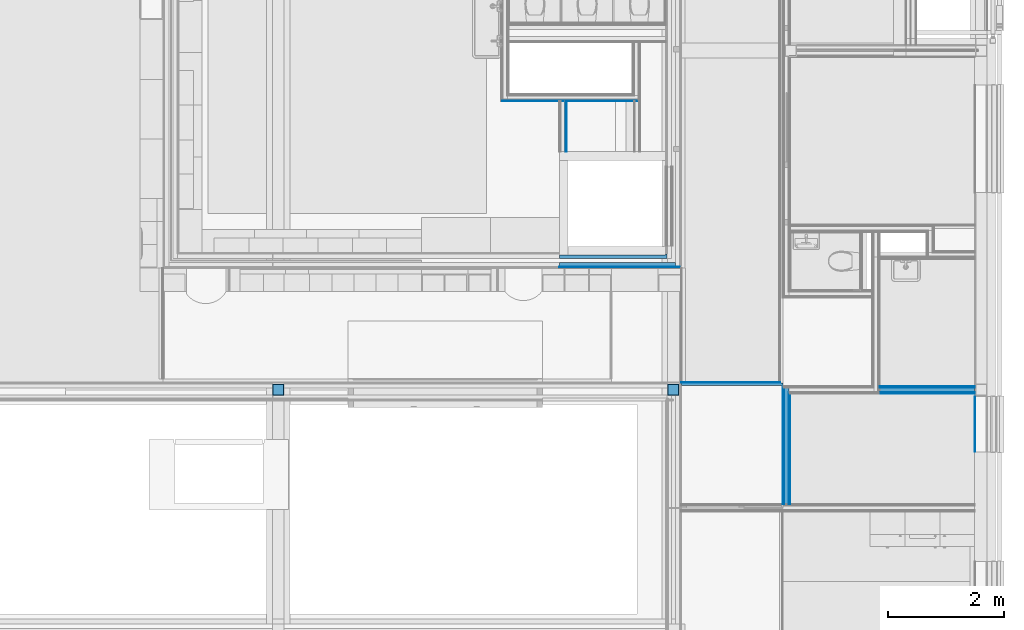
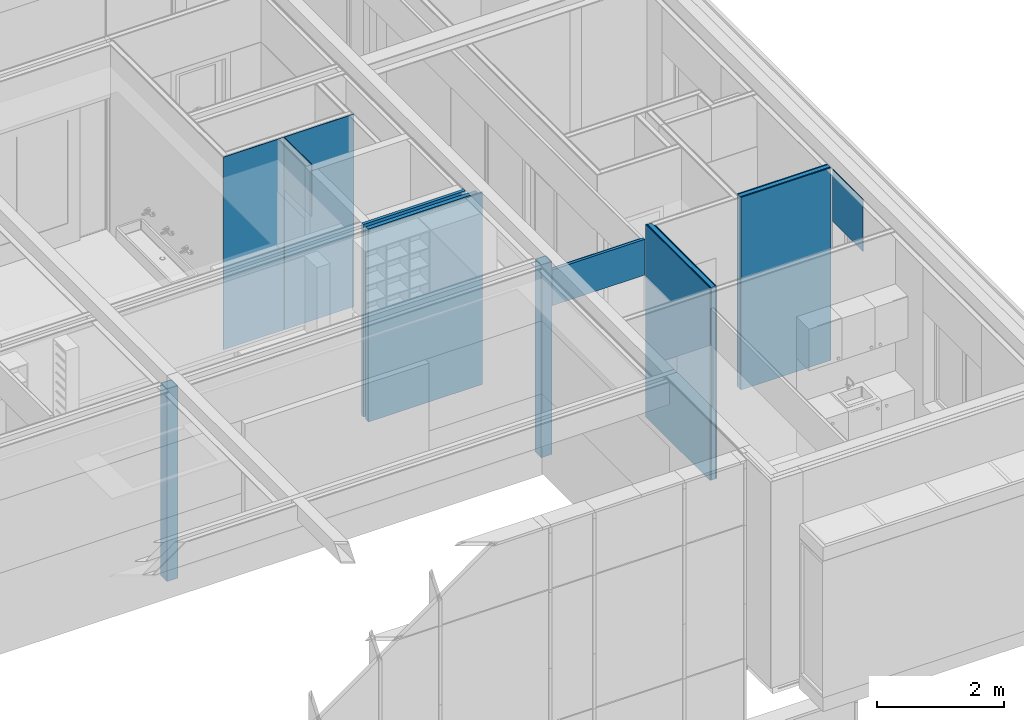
# One storey, part 70 of 137: 22 building element parts, 1 opening, 9 elements without a shape of their own.
"""IFC2X3 building model written with IfcOpenShell, lengths in millimetres."""

from ifc_helpers import new_model, entity, si_unit, converted_unit, derived_unit, money_unit, direction, frame, origin_with_axes, place, context, subcontext, project, spatial, faceted_brep, material, type_object, element, aggregate, save


model = new_model("IFC2X3")

# Units and contexts
model_context = context("Model", 3, precision=0.01, world=origin_with_axes(), true_north=direction((0.0, 1.0)))
body_context = subcontext(model_context, "Body", "Model", "MODEL_VIEW")
ifc_project = project(units=[si_unit("LENGTHUNIT", "METRE", prefix="MILLI"), si_unit("AREAUNIT", "SQUARE_METRE"), si_unit("VOLUMEUNIT", "CUBIC_METRE"), converted_unit("PLANEANGLEUNIT", "DEGREE", entity("IfcPlaneAngleMeasure", 0.0174532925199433), si_unit("PLANEANGLEUNIT", "RADIAN"), dimensions=[0, 0, 0, 0, 0, 0, 0]), money_unit("EUR"), converted_unit("TIMEUNIT", "Year", entity("IfcTimeMeasure", 31556926.0), si_unit("TIMEUNIT", "SECOND"), dimensions=[0, 0, 1, 0, 0, 0, 0]), si_unit("MASSUNIT", "GRAM", prefix="KILO"), si_unit("THERMODYNAMICTEMPERATUREUNIT", "DEGREE_CELSIUS"), si_unit("LUMINOUSINTENSITYUNIT", "LUMEN"), si_unit("ENERGYUNIT", "JOULE", prefix="MEGA"), derived_unit("THERMALCONDUCTANCEUNIT", [(si_unit("POWERUNIT", "WATT"), 1), (si_unit("LENGTHUNIT", "METRE"), -1), (si_unit("THERMODYNAMICTEMPERATUREUNIT", "KELVIN"), -1)]), derived_unit("SPECIFICHEATCAPACITYUNIT", [(si_unit("ENERGYUNIT", "JOULE"), 1), (si_unit("MASSUNIT", "GRAM", prefix="KILO"), -1), (si_unit("THERMODYNAMICTEMPERATUREUNIT", "KELVIN"), -1)]), derived_unit("MASSDENSITYUNIT", [(si_unit("MASSUNIT", "GRAM", prefix="KILO"), 1), (si_unit("VOLUMEUNIT", "CUBIC_METRE"), -1)])], contexts=[model_context])

# Site, building, storey
site_placement = place(None, origin_with_axes())
site = spatial("IfcSite", under=ifc_project, at=site_placement, Name="Site", CompositionType="ELEMENT")
building_placement = place(site_placement, origin_with_axes())
building = spatial("IfcBuilding", under=site, at=building_placement, Name="Naam gebouw", CompositionType="ELEMENT")
storey_placement = place(building_placement, frame((0.0, 0.0, 3960.0), z_axis=(0.0, 0.0, 1.0), x_axis=(1.0, 0.0, 0.0)))
storey = spatial("IfcBuildingStorey", under=building, at=storey_placement, Name="1e verdieping", CompositionType="ELEMENT", Elevation=3960.0)

# Proxy, building element parts
building_element_proxy_type_1 = type_object("IfcBuildingElementProxyType", Name="22 Metal stud 125 gips 125", PredefinedType="NOTDEFINED")
proxy_1_placement = place(storey_placement, frame((29899.99999999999, 10810.00011055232, -100.0000000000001), z_axis=(0.0, 0.0, 1.0), x_axis=(-1.0, 0.0, 0.0)))
proxy_1 = element("IfcBuildingElementProxy", 1, at=proxy_1_placement, inside=storey, type_object=building_element_proxy_type_1, Name="_Wand-x")
ifc_material_1 = material(Name="Gipsplaat")
building_element_part_1_placement = place(proxy_1_placement, origin_with_axes())
building_element_part_1 = element("IfcBuildingElementPart", 2, at=building_element_part_1_placement, material=ifc_material_1, Name="Gipsplaat", context=body_context, shape_type="Brep", body=[
    faceted_brep([(213.9999999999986, 50.00000000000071, 3695.000001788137), (213.9999999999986, 37.49999999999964, 3695.000001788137), (213.9999999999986, 37.49999999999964, 3700.0), (213.9999999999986, 50.00000000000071, 3700.0), (299.0000049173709, 37.49999999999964, 3695.000001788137), (299.0000049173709, 50.00000000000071, 3695.000001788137), (299.0000049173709, 37.49999999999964, 3685.000001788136), (213.9999999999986, 37.49999999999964, 3685.000001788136), (213.9999999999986, 37.49999999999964, 0.0), (1850.002354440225, 37.49999999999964, 0.0), (1850.002354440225, 37.49999999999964, 3700.0), (1850.002354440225, 50.00000000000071, 3700.0), (1850.002354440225, 50.00000000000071, 0.0), (213.9999999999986, 50.00000000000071, 0.0), (213.9999999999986, 50.00000000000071, 3685.000001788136), (299.0000049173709, 50.00000000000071, 3685.000001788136)], [[[0, 1, 2, 3]], [[4, 1, 0, 5]], [[6, 7, 8, 9, 10, 2, 1, 4]], [[2, 10, 11, 3]], [[5, 0, 3, 11, 12, 13, 14, 15]], [[6, 4, 5, 15]], [[14, 7, 6, 15]], [[7, 14, 13, 8]], [[13, 12, 9, 8]], [[12, 11, 10, 9]]]),
])
building_element_part_2_placement = place(proxy_1_placement, origin_with_axes())
building_element_part_2 = element("IfcBuildingElementPart", 3, at=building_element_part_2_placement, material=ifc_material_1, Name="Gipsplaat", context=body_context, shape_type="Brep", body=[
    faceted_brep([(213.9999999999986, 62.5, 3695.000001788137), (213.9999999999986, 50.00000000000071, 3695.000001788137), (213.9999999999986, 50.00000000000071, 3700.0), (213.9999999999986, 62.5, 3700.0), (299.0000049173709, 50.00000000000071, 3695.000001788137), (299.0000049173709, 62.5, 3695.000001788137), (299.0000049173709, 50.00000000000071, 3685.000001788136), (213.9999999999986, 50.00000000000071, 3685.000001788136), (213.9999999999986, 50.00000000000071, 0.0), (1850.002354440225, 50.00000000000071, 0.0), (1850.002354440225, 50.00000000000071, 3700.0), (1850.002354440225, 62.5, 3700.0), (1850.002354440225, 62.5, 0.0), (213.9999999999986, 62.5, 0.0), (213.9999999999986, 62.5, 3685.000001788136), (299.0000049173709, 62.5, 3685.000001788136)], [[[0, 1, 2, 3]], [[4, 1, 0, 5]], [[6, 7, 8, 9, 10, 2, 1, 4]], [[2, 10, 11, 3]], [[5, 0, 3, 11, 12, 13, 14, 15]], [[6, 4, 5, 15]], [[14, 7, 6, 15]], [[7, 14, 13, 8]], [[13, 12, 9, 8]], [[12, 11, 10, 9]]]),
])
ifc_material_2 = material(Name="ALG - LICHTE SCHEIDINGSWAND")
building_element_part_3_placement = place(proxy_1_placement, origin_with_axes())
building_element_part_3 = element("IfcBuildingElementPart", 4, at=building_element_part_3_placement, material=ifc_material_2, Name="ALG - LICHTE SCHEIDINGSWAND", context=body_context, shape_type="Brep", body=[
    faceted_brep([(213.9999999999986, 37.49999999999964, 3695.000001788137), (213.9999999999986, -37.49999999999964, 3695.000001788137), (213.9999999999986, -37.49999999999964, 3700.0), (213.9999999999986, 37.49999999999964, 3700.0), (299.0000049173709, -37.49999999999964, 3695.000001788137), (299.0000049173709, 37.49999999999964, 3695.000001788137), (299.0000049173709, -37.49999999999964, 3685.000001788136), (213.9999999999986, -37.49999999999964, 3685.000001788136), (213.9999999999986, -37.49999999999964, 0.0), (1850.002354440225, -37.49999999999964, 0.0), (1850.002354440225, -37.49999999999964, 3700.0), (1850.002354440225, 37.49999999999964, 3700.0), (1850.002354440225, 37.49999999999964, 0.0), (213.9999999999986, 37.49999999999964, 0.0), (213.9999999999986, 37.49999999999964, 3685.000001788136), (299.0000049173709, 37.49999999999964, 3685.000001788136)], [[[0, 1, 2, 3]], [[4, 1, 0, 5]], [[6, 7, 8, 9, 10, 2, 1, 4]], [[2, 10, 11, 3]], [[5, 0, 3, 11, 12, 13, 14, 15]], [[6, 4, 5, 15]], [[14, 7, 6, 15]], [[7, 14, 13, 8]], [[13, 12, 9, 8]], [[12, 11, 10, 9]]]),
])
building_element_part_4_placement = place(proxy_1_placement, origin_with_axes())
building_element_part_4 = element("IfcBuildingElementPart", 5, at=building_element_part_4_placement, material=ifc_material_1, Name="Gipsplaat", context=body_context, shape_type="Brep", body=[
    faceted_brep([(213.9999999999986, -37.49999999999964, 3695.000001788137), (213.9999999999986, -49.99999999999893, 3695.000001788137), (213.9999999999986, -49.99999999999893, 3700.0), (213.9999999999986, -37.49999999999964, 3700.0), (299.0000049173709, -49.99999999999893, 3695.000001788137), (299.0000049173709, -37.49999999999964, 3695.000001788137), (299.0000049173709, -49.99999999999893, 3685.000001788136), (213.9999999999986, -49.99999999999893, 3685.000001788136), (213.9999999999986, -50.00000000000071, 0.0), (1850.002354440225, -50.00000000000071, 0.0), (1850.002354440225, -49.99999999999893, 3700.0), (1850.002354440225, -37.49999999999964, 3700.0), (1850.002354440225, -37.49999999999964, 0.0), (213.9999999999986, -37.49999999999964, 0.0), (213.9999999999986, -37.49999999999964, 3685.000001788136), (299.0000049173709, -37.49999999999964, 3685.000001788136)], [[[0, 1, 2, 3]], [[4, 1, 0, 5]], [[6, 7, 8, 9, 10, 2, 1, 4]], [[2, 10, 11, 3]], [[5, 0, 3, 11, 12, 13, 14, 15]], [[6, 4, 5, 15]], [[14, 7, 6, 15]], [[7, 14, 13, 8]], [[13, 12, 9, 8]], [[12, 11, 10, 9]]]),
])
building_element_part_5_placement = place(proxy_1_placement, origin_with_axes())
building_element_part_5 = element("IfcBuildingElementPart", 6, at=building_element_part_5_placement, material=ifc_material_1, Name="Gipsplaat", context=body_context, shape_type="Brep", body=[
    faceted_brep([(213.9999999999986, -49.99999999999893, 3695.000001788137), (213.9999999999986, -62.5, 3695.000001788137), (213.9999999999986, -62.5, 3700.0), (213.9999999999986, -49.99999999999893, 3700.0), (299.0000049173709, -62.49999999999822, 3695.000001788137), (299.0000049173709, -49.99999999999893, 3695.000001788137), (299.0000049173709, -62.49999999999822, 3685.000001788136), (213.9999999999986, -62.5, 3685.000001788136), (213.9999999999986, -62.5, 0.0), (1850.002354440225, -62.5, 0.0), (1850.002354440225, -62.5, 3700.0), (1850.002354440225, -49.99999999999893, 3700.0), (1850.002354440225, -50.00000000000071, 0.0), (213.9999999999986, -50.00000000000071, 0.0), (213.9999999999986, -49.99999999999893, 3685.000001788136), (299.0000049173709, -49.99999999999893, 3685.000001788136)], [[[0, 1, 2, 3]], [[4, 1, 0, 5]], [[6, 7, 8, 9, 10, 2, 1, 4]], [[2, 10, 11, 3]], [[5, 0, 3, 11, 12, 13, 14, 15]], [[6, 4, 5, 15]], [[14, 7, 6, 15]], [[7, 14, 13, 8]], [[13, 12, 9, 8]], [[12, 11, 10, 9]]]),
])
aggregate(proxy_1, [building_element_part_1, building_element_part_2, building_element_part_3, building_element_part_4, building_element_part_5])

proxy_2_placement = place(storey_placement, frame((26386.00000000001, 10810.00011055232, -100.0000000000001), z_axis=(0.0, 0.0, 1.0), x_axis=(0.0, -1.0, 0.0)))
proxy_2 = element("IfcBuildingElementProxy", 7, at=proxy_2_placement, inside=storey, type_object=building_element_proxy_type_1, Name="_Wand-x")
building_element_part_6_placement = place(proxy_2_placement, origin_with_axes())
building_element_part_6 = element("IfcBuildingElementPart", 8, at=building_element_part_6_placement, material=ifc_material_1, Name="Gipsplaat", context=body_context, shape_type="Brep", body=[
    faceted_brep([(1970.000110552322, 112.5000000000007, 0.0), (50.00000000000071, 112.5000000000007, 0.0), (50.00000000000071, 125.0, 0.0), (1970.000110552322, 125.0, 0.0), (1970.000110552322, 112.5000000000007, 3700.0), (50.00000000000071, 112.5000000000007, 3700.0), (50.00000000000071, 125.0, 3700.0), (1970.000110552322, 125.0, 3700.0)], [[[0, 1, 2, 3]], [[4, 5, 1, 0]], [[2, 1, 5, 6]], [[3, 2, 6, 7]], [[3, 7, 4, 0]], [[7, 6, 5, 4]]]),
])
building_element_part_7_placement = place(proxy_2_placement, origin_with_axes())
building_element_part_7 = element("IfcBuildingElementPart", 9, at=building_element_part_7_placement, material=ifc_material_1, Name="Gipsplaat", context=body_context, shape_type="Brep", body=[
    faceted_brep([(1970.000110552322, 100.0000000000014, 0.0), (37.49999999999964, 100.0000000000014, 0.0), (37.49999999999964, 112.5000000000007, 0.0), (1970.000110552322, 112.5000000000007, 0.0), (1970.000110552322, 100.0000000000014, 3700.0), (37.49999999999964, 100.0000000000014, 3700.0), (37.49999999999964, 112.5000000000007, 3700.0), (1970.000110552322, 112.5000000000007, 3700.0)], [[[0, 1, 2, 3]], [[4, 5, 1, 0]], [[2, 1, 5, 6]], [[3, 2, 6, 7]], [[3, 7, 4, 0]], [[7, 6, 5, 4]]]),
])
building_element_part_8_placement = place(proxy_2_placement, origin_with_axes())
building_element_part_8 = element("IfcBuildingElementPart", 10, at=building_element_part_8_placement, material=ifc_material_2, Name="ALG - LICHTE SCHEIDINGSWAND", context=body_context, shape_type="Brep", body=[
    faceted_brep([(1970.000110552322, 24.99999999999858, 0.0), (-37.49999999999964, 24.99999999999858, 0.0), (-37.49999999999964, 100.0000000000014, 0.0), (1970.000110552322, 100.0000000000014, 0.0), (1970.000110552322, 24.99999999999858, 3700.0), (-37.49999999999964, 24.99999999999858, 3700.0), (-37.49999999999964, 100.0000000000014, 3700.0), (1970.000110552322, 100.0000000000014, 3700.0)], [[[0, 1, 2, 3]], [[4, 5, 1, 0]], [[2, 1, 5, 6]], [[3, 2, 6, 7]], [[3, 7, 4, 0]], [[7, 6, 5, 4]]]),
])
building_element_part_9_placement = place(proxy_2_placement, origin_with_axes())
building_element_part_9 = element("IfcBuildingElementPart", 11, at=building_element_part_9_placement, material=ifc_material_1, Name="Gipsplaat", context=body_context, shape_type="Brep", body=[
    faceted_brep([(1970.000110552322, 12.49999999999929, 0.0), (-50.00000000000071, 12.49999999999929, 0.0), (-50.00000000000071, 24.99999999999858, 0.0), (1970.000110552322, 24.99999999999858, 0.0), (1970.000110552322, 12.49999999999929, 3700.0), (-50.00000000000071, 12.49999999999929, 3700.0), (-50.00000000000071, 24.99999999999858, 3700.0), (1970.000110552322, 24.99999999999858, 3700.0)], [[[0, 1, 2, 3]], [[4, 5, 1, 0]], [[2, 1, 5, 6]], [[3, 2, 6, 7]], [[3, 7, 4, 0]], [[7, 6, 5, 4]]]),
])
building_element_part_10_placement = place(proxy_2_placement, origin_with_axes())
building_element_part_10 = element("IfcBuildingElementPart", 12, at=building_element_part_10_placement, material=ifc_material_1, Name="Gipsplaat", context=body_context, shape_type="Brep", body=[
    faceted_brep([(1970.000110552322, 0.0, 0.0), (-62.5, 0.0, 0.0), (-62.5, 12.49999999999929, 0.0), (1970.000110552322, 12.49999999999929, 0.0), (1970.000110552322, 0.0, 3700.0), (-62.5, 0.0, 3700.0), (-62.5, 12.49999999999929, 3700.0), (1970.000110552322, 12.49999999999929, 3700.0)], [[[0, 1, 2, 3]], [[4, 5, 1, 0]], [[2, 1, 5, 6]], [[3, 2, 6, 7]], [[3, 7, 4, 0]], [[7, 6, 5, 4]]]),
])
aggregate(proxy_2, [building_element_part_6, building_element_part_7, building_element_part_8, building_element_part_9, building_element_part_10])

building_element_proxy_type_2 = type_object("IfcBuildingElementProxyType", Name="22 Metal stud 270 oregon pine 270", PredefinedType="NOTDEFINED")
proxy_3_placement = place(storey_placement, frame((24499.99903999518, 13039.99778166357, -100.0000000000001), z_axis=(0.0, 0.0, 1.0), x_axis=(-1.0, 0.0, 0.0)))
proxy_3 = element("IfcBuildingElementProxy", 13, at=proxy_3_placement, inside=storey, type_object=building_element_proxy_type_2, Name="_Wand-x")
building_element_part_11_placement = place(proxy_3_placement, origin_with_axes())
building_element_part_11 = element("IfcBuildingElementPart", 14, at=building_element_part_11_placement, material=ifc_material_1, Name="Gipsplaat", context=body_context, shape_type="Brep", body=[
    faceted_brep([(94.99999999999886, 109.9999999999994, 3700.0), (94.99999999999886, 122.5000000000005, 3700.0), (-94.99999999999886, 122.5000000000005, 3700.0), (-94.99999999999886, 109.9999999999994, 3700.0), (94.99999999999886, 109.9999999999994, 3695.000029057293), (94.99999999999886, 122.5000000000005, 3695.000029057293), (-94.99999999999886, 122.5000000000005, 3695.000029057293), (-94.99999999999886, 109.9999999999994, 3695.000029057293)], [[[0, 1, 2, 3]], [[1, 0, 4, 5]], [[6, 2, 1, 5]], [[7, 3, 2, 6]], [[4, 0, 3, 7]], [[4, 7, 6, 5]]]),
    faceted_brep([(199.9999999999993, 109.9999999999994, 3695.000029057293), (199.9999999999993, 109.9999999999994, 3685.000029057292), (-109.9999999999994, 109.9999999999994, 3685.000029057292), (-109.9999999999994, 109.9999999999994, 0.0), (1964.999999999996, 109.9999999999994, 0.0), (1964.999999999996, 109.9999999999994, 3700.0), (100.9999999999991, 109.9999999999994, 3700.0), (100.9999999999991, 109.9999999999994, 3695.000029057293), (199.9999999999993, 122.5000000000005, 3695.000029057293), (199.9999999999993, 122.5000000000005, 3685.000029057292), (-109.9999999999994, 122.5000000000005, 3685.000029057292), (-109.9999999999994, 122.5000000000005, 0.0), (1964.999999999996, 122.5000000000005, 0.0), (1964.999999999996, 122.5000000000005, 3700.0), (100.9999999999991, 122.5000000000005, 3700.0), (100.9999999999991, 122.5000000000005, 3695.000029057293)], [[[0, 1, 2, 3, 4, 5, 6, 7]], [[1, 0, 8, 9]], [[10, 2, 1, 9]], [[2, 10, 11, 3]], [[11, 12, 4, 3]], [[13, 5, 4, 12]], [[14, 6, 5, 13]], [[7, 6, 14, 15]], [[0, 7, 15, 8]], [[15, 14, 13, 12, 11, 10, 9, 8]]]),
    faceted_brep([(-109.9999999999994, 122.5000000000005, 3695.000029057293), (-109.9999999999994, 109.9999999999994, 3695.000029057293), (-109.9999999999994, 109.9999999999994, 3700.0), (-109.9999999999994, 122.5000000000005, 3700.0), (-100.9999999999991, 109.9999999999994, 3695.000029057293), (-100.9999999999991, 122.5000000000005, 3695.000029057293), (-100.9999966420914, 109.9999999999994, 3700.0), (-100.9999966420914, 122.5000000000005, 3700.0)], [[[0, 1, 2, 3]], [[4, 1, 0, 5]], [[4, 6, 2, 1]], [[6, 7, 3, 2]], [[5, 0, 3, 7]], [[7, 6, 4, 5]]]),
])
building_element_part_12_placement = place(proxy_3_placement, origin_with_axes())
building_element_part_12 = element("IfcBuildingElementPart", 15, at=building_element_part_12_placement, material=ifc_material_2, Name="ALG - LICHTE SCHEIDINGSWAND", context=body_context, shape_type="Brep", body=[
    faceted_brep([(1814.999999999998, -89.99992040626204, 0.0), (1814.999999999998, -89.99992040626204, 3700.0), (134.999999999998, -89.99992040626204, 3700.0), (134.999999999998, -89.99992040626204, 3695.000029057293), (199.9999999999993, -89.99992040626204, 3695.000029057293), (199.9999999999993, -89.99992040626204, 3685.000029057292), (134.999999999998, -89.99992040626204, 3685.000029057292), (134.999999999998, -89.99992040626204, 0.0), (1964.999999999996, -89.99992040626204, 3700.0), (1964.999999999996, -89.99992040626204, 0.0), (1964.999999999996, -35.00000000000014, 3700.0), (109.9999999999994, -35.00000000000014, 3700.0), (109.9999999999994, -109.9999999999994, 3700.0), (134.999999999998, -109.9999999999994, 3700.0), (134.999999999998, -109.9999999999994, 3695.000029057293), (109.9999999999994, -109.9999999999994, 3695.000029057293), (109.9999999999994, -35.00000000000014, 3695.000029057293), (199.9999999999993, -35.00000000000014, 3695.000029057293), (199.9999999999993, -35.00000000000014, 3685.000029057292), (134.999999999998, -109.9999999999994, 3685.000029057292), (109.9999999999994, -35.00000000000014, 3685.000029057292), (109.9999999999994, -109.9999999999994, 3685.000029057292), (134.999999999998, -109.9999999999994, 0.0), (109.9999999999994, -109.9999999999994, 0.0), (109.9999999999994, -35.00000000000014, 0.0), (1964.999999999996, -35.00000000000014, 0.0)], [[[0, 1, 2, 3, 4, 5, 6, 7]], [[8, 1, 0, 9]], [[1, 8, 10, 11, 12, 13, 2]], [[3, 2, 13, 14]], [[4, 3, 14, 15, 16, 17]], [[18, 5, 4, 17]], [[19, 6, 5, 18, 20, 21]], [[7, 6, 19, 22]], [[9, 0, 7, 22, 23, 24, 25]], [[8, 9, 25, 10]], [[20, 18, 17, 16, 11, 10, 25, 24]], [[12, 11, 16, 15]], [[15, 14, 13, 12]], [[24, 23, 21, 20]], [[23, 22, 19, 21]]]),
])
building_element_part_13_placement = place(proxy_3_placement, origin_with_axes())
building_element_part_13 = element("IfcBuildingElementPart", 16, at=building_element_part_13_placement, material=ifc_material_2, Name="ALG - LICHTE SCHEIDINGSWAND", context=body_context, shape_type="Brep", body=[
    faceted_brep([(199.9999999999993, 35.00000000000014, 3695.000029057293), (199.9999999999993, 35.00000000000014, 3685.000029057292), (-35.00000000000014, 35.00000000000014, 3685.000029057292), (-35.00000000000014, 35.00000000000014, 0.0), (1964.999999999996, 35.00000000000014, 0.0), (1964.999999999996, 35.00000000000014, 3700.0), (100.9999999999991, 35.00000000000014, 3700.0), (100.9999999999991, 35.00000000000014, 3695.000029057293), (199.9999999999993, 109.9999999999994, 3695.000029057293), (199.9999999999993, 109.9999999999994, 3685.000029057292), (-35.00000000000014, 109.9999999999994, 3685.000029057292), (-35.00000000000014, 109.9999999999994, 0.0), (1964.999999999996, 109.9999999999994, 0.0), (1964.999999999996, 109.9999999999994, 3700.0), (100.9999999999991, 109.9999999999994, 3700.0), (100.9999999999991, 109.9999999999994, 3695.000029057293)], [[[0, 1, 2, 3, 4, 5, 6, 7]], [[1, 0, 8, 9]], [[10, 2, 1, 9]], [[2, 10, 11, 3]], [[11, 12, 4, 3]], [[13, 5, 4, 12]], [[14, 6, 5, 13]], [[7, 6, 14, 15]], [[0, 7, 15, 8]], [[15, 14, 13, 12, 11, 10, 9, 8]]]),
    faceted_brep([(-35.00000000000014, 109.9999999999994, 3695.000029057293), (-35.00000000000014, 35.00000000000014, 3695.000029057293), (-35.00000000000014, 35.00000000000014, 3700.0), (-35.00000000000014, 109.9999999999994, 3700.0), (94.99999999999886, 35.00000000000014, 3695.000029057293), (94.99999999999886, 109.9999999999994, 3695.000029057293), (94.99999999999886, 35.00000000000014, 3700.0), (94.99999999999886, 109.9999999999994, 3700.0)], [[[0, 1, 2, 3]], [[4, 1, 0, 5]], [[4, 6, 2, 1]], [[6, 7, 3, 2]], [[5, 0, 3, 7]], [[7, 6, 4, 5]]]),
])
aggregate(proxy_3, [building_element_part_11, building_element_part_12, building_element_part_13])

# Proxy, building element part
proxy_4_placement = place(storey_placement, frame((21539.99903999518, 15774.99778168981, -100.0000000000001), z_axis=(0.0, 0.0, 1.0), x_axis=(1.0, 0.0, 0.0)))
proxy_4 = element("IfcBuildingElementProxy", 17, at=proxy_4_placement, inside=storey, type_object=building_element_proxy_type_1, Name="_Wand-x")
building_element_part_14_placement = place(proxy_4_placement, origin_with_axes())
building_element_part_14 = element("IfcBuildingElementPart", 18, at=building_element_part_14_placement, material=ifc_material_1, Name="Gipsplaat", context=body_context, shape_type="Brep", body=[
    faceted_brep([(2385.000000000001, 9.351452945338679e-08, 0.0), (12.49999999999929, 4.902744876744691e-10, 0.0), (12.49999999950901, 12.50000000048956, 0.0), (2384.999999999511, 12.50000009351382, 0.0), (2385.000000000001, 9.351452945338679e-08, 3700.0), (12.49999999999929, 4.902744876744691e-10, 3700.0), (12.49999999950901, 12.50000000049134, 3700.0), (2384.999999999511, 12.5000000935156, 3700.0)], [[[0, 1, 2, 3]], [[4, 5, 1, 0]], [[2, 1, 5, 6]], [[3, 2, 6, 7]], [[3, 7, 4, 0]], [[7, 6, 5, 4]]]),
])
aggregate(proxy_4, [building_element_part_14])

# Column, building element part
column_type = type_object("IfcColumnType", Name="200X200X10 200 x 200", PredefinedType="COLUMN")
column_1_placement = place(storey_placement, frame((17699.99942456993, 10810.00011055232, -100.0000000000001), z_axis=(0.0, 0.0, 1.0), x_axis=(1.0, 0.0, 0.0)))
column_1 = element("IfcColumn", 19, at=column_1_placement, inside=storey, type_object=column_type, Name="28_Kolom-x", ObjectType="COLUMN")
ifc_material_3 = material(Name="Metaal - Staal C")
building_element_part_15_placement = place(column_1_placement, origin_with_axes())
building_element_part_15 = element("IfcBuildingElementPart", 20, at=building_element_part_15_placement, material=ifc_material_3, Name="Metaal - Staal C", context=body_context, shape_type="Brep", body=[
    faceted_brep([(-100.0000000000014, -99.99999999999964, 0.0), (100.0000000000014, -99.99999999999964, 0.0), (100.0000000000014, -99.99999999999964, 3699.999999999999), (-100.0000000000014, -99.99999999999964, 3699.999999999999), (-100.0000000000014, 99.99999999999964, 0.0), (100.0000000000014, 99.99999999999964, 0.0), (-89.99999999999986, -89.99999999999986, 0.0), (89.99999999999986, -89.99999999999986, 0.0), (89.99999999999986, 89.99999999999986, 0.0), (-89.99999999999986, 89.99999999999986, 0.0), (100.0000000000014, 99.99999999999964, 3699.999999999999), (-100.0000000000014, 99.99999999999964, 3699.999999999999), (-89.99999999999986, -89.99999999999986, 3699.999999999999), (-89.99999999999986, 89.99999999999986, 3699.999999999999), (89.99999999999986, 89.99999999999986, 3699.999999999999), (89.99999999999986, -89.99999999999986, 3699.999999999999)], [[[0, 1, 2, 3]], [[0, 4, 5, 1], [6, 7, 8, 9]], [[1, 5, 10, 2]], [[3, 2, 10, 11], [12, 13, 14, 15]], [[4, 0, 3, 11]], [[5, 4, 11, 10]], [[7, 6, 12, 15]], [[8, 7, 15, 14]], [[9, 8, 14, 13]], [[6, 9, 13, 12]]]),
])

# Column, building element parts
column_2_placement = place(storey_placement, frame((24499.99903999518, 10810.00011055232, -100.0000000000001), z_axis=(0.0, 0.0, 1.0), x_axis=(1.0, 0.0, 0.0)))
column_2 = element("IfcColumn", 21, at=column_2_placement, inside=storey, type_object=column_type, Name="28_Kolom-x", ObjectType="COLUMN")
building_element_part_16_placement = place(column_2_placement, origin_with_axes())
building_element_part_16 = element("IfcBuildingElementPart", 22, at=building_element_part_16_placement, material=ifc_material_3, Name="Metaal - Staal C", context=body_context, shape_type="Brep", body=[
    faceted_brep([(-100.0000000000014, -99.99999999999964, 0.0), (100.0000000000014, -99.99999999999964, 0.0), (100.0000000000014, -99.99999999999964, 3699.999999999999), (-100.0000000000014, -99.99999999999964, 3699.999999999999), (-100.0000000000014, 99.99999999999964, 0.0), (100.0000000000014, 99.99999999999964, 0.0), (-89.99999999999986, -89.99999999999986, 0.0), (89.99999999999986, -89.99999999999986, 0.0), (89.99999999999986, 89.99999999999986, 0.0), (-89.99999999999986, 89.99999999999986, 0.0), (100.0000000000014, 99.99999999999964, 3699.999999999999), (-100.0000000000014, 99.99999999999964, 3699.999999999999), (-89.99999999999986, -89.99999999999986, 3699.999999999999), (-89.99999999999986, 89.99999999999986, 3699.999999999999), (89.99999999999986, 89.99999999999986, 3699.999999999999), (89.99999999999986, -89.99999999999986, 3699.999999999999)], [[[0, 1, 2, 3]], [[0, 4, 5, 1], [6, 7, 8, 9]], [[1, 5, 10, 2]], [[3, 2, 10, 11], [12, 13, 14, 15]], [[4, 0, 3, 11]], [[5, 4, 11, 10]], [[7, 6, 12, 15]], [[8, 7, 15, 14]], [[9, 8, 14, 13]], [[6, 9, 13, 12]]]),
])
ifc_material_4 = material(Name="Beton gewapend C")
building_element_part_17_placement = place(column_2_placement, origin_with_axes())
building_element_part_17 = element("IfcBuildingElementPart", 23, at=building_element_part_17_placement, material=ifc_material_4, Name="Beton gewapend C", context=body_context, shape_type="Brep", body=[
    faceted_brep([(-89.99999999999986, 89.99999999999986, 3685.000029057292), (89.99999999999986, 89.99999999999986, 3685.000029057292), (89.99999999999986, 89.99999999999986, 0.0), (-89.99999999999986, 89.99999999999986, 0.0), (89.99999999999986, -89.99999999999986, 3685.000029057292), (-89.99999999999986, -89.99999999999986, 3685.000029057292), (89.99999999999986, -89.99999999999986, 0.0), (-89.99999999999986, -89.99999999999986, 0.0)], [[[0, 1, 2, 3]], [[4, 1, 0, 5]], [[1, 4, 6, 2]], [[2, 6, 7, 3]], [[5, 0, 3, 7]], [[4, 5, 7, 6]]]),
    faceted_brep([(89.99999999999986, -89.99999999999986, 3695.000029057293), (89.99999999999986, 89.99999999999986, 3695.000029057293), (89.99999999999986, 89.99999999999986, 3699.999999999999), (89.99999999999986, -89.99999999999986, 3699.999999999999), (-89.99999999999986, 89.99999999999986, 3695.000029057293), (-89.99999999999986, -89.99999999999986, 3695.000029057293), (-89.99999999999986, 89.99999999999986, 3699.999999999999), (-89.99999999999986, -89.99999999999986, 3699.999999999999)], [[[0, 1, 2, 3]], [[4, 1, 0, 5]], [[1, 4, 6, 2]], [[2, 6, 7, 3]], [[5, 0, 3, 7]], [[4, 5, 7, 6]]]),
])
aggregate(column_2, [building_element_part_16, building_element_part_17])

# Building element part
building_element_part_18_placement = place(column_1_placement, origin_with_axes())
building_element_part_18 = element("IfcBuildingElementPart", 24, at=building_element_part_18_placement, material=ifc_material_4, Name="Beton gewapend C", context=body_context, shape_type="Brep", body=[
    faceted_brep([(-89.99999999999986, 89.99999999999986, 3675.000029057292), (89.99999999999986, 89.99999999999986, 3675.000029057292), (89.99999999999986, 89.99999999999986, 0.0), (-89.99999999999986, 89.99999999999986, 0.0), (89.99999999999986, -89.99999999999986, 3675.000029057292), (-89.99999999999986, -89.99999999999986, 3675.000029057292), (89.99999999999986, -89.99999999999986, 0.0), (-89.99999999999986, -89.99999999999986, 0.0)], [[[0, 1, 2, 3]], [[4, 1, 0, 5]], [[1, 4, 6, 2]], [[2, 6, 7, 3]], [[5, 0, 3, 7]], [[4, 5, 7, 6]]]),
    faceted_brep([(89.99999999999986, -89.99999999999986, 3695.000029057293), (89.99999999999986, 89.99999999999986, 3695.000029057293), (89.99999999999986, 89.99999999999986, 3699.999999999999), (89.99999999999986, -89.99999999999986, 3699.999999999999), (-89.99999999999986, 89.99999999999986, 3695.000029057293), (-89.99999999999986, -89.99999999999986, 3695.000029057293), (-89.99999999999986, 89.99999999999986, 3699.999999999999), (-89.99999999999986, -89.99999999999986, 3699.999999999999)], [[[0, 1, 2, 3]], [[4, 1, 0, 5]], [[1, 4, 6, 2]], [[2, 6, 7, 3]], [[5, 0, 3, 7]], [[4, 5, 7, 6]]]),
])

aggregate(column_1, [building_element_part_15, building_element_part_18])

# Proxy, building element parts
building_element_proxy_type_3 = type_object("IfcBuildingElementProxyType", Name="22 Metal stud 62.5 plafond 63", PredefinedType="NOTDEFINED")
proxy_5_placement = place(storey_placement, frame((26323.50000000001, 10945.00011055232, 2600.0), z_axis=(0.0, 0.0, 1.0), x_axis=(-1.0, 0.0, 0.0)))
proxy_5 = element("IfcBuildingElementProxy", 25, at=proxy_5_placement, inside=storey, type_object=building_element_proxy_type_3, Name="_Wand-x")
building_element_part_19_placement = place(proxy_5_placement, origin_with_axes())
building_element_part_19 = element("IfcBuildingElementPart", 26, at=building_element_part_19_placement, material=ifc_material_2, Name="ALG - LICHTE SCHEIDINGSWAND", context=body_context, shape_type="Brep", body=[
    faceted_brep([(-62.5, 62.5, 11.99999999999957), (-62.5, 12.49999999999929, 11.99999999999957), (-62.5, 12.49999999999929, 700.0000000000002), (-62.5, 62.5, 700.0000000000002), (1688.500960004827, 12.49999999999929, 11.99999999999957), (1688.500960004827, 62.5, 11.99999999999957), (1688.500960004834, 12.49999999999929, 400.0000000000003), (1688.500960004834, 12.49999999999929, 700.0000000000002), (1688.500960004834, 62.5, 700.0000000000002), (1688.500960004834, 62.5, 400.0000000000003)], [[[0, 1, 2, 3]], [[4, 1, 0, 5]], [[1, 4, 6, 7, 2]], [[2, 7, 8, 3]], [[5, 0, 3, 8, 9]], [[4, 5, 9, 6]], [[9, 8, 7, 6]]]),
])
building_element_part_20_placement = place(proxy_5_placement, origin_with_axes())
building_element_part_20 = element("IfcBuildingElementPart", 27, at=building_element_part_20_placement, material=ifc_material_1, Name="Gipsplaat", context=body_context, shape_type="Brep", body=[
    faceted_brep([(-12.49999999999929, 12.49999999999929, 11.99999999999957), (-12.49999999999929, 0.0, 11.99999999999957), (-12.49999999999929, 0.0, 700.0000000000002), (-12.49999999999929, 12.49999999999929, 700.0000000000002), (0.0, 2.990132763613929e-05, 11.99999999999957), (1688.500960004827, 12.49999999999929, 11.99999999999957), (1688.500960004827, 2.990132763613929e-05, 11.99999999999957), (1688.500960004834, 0.0, 400.0000000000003), (1688.500960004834, 0.0, 700.0000000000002), (1688.500960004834, 12.49999999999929, 700.0000000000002), (1688.500960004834, 12.49999999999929, 400.0000000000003)], [[[0, 1, 2, 3]], [[4, 1, 0, 5, 6]], [[4, 6, 7, 8, 2, 1]], [[2, 8, 9, 3]], [[5, 0, 3, 9, 10]], [[6, 5, 10, 7]], [[10, 9, 8, 7]]]),
])
aggregate(proxy_5, [building_element_part_19, building_element_part_20])

# Beam, building element part
beam_type = type_object("IfcBeamType", Name="31 HSB boven kozijnen 214 x 1000", PredefinedType="BEAM")
beam_placement = place(storey_placement, frame((29685.99999999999, 10695.00011055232, 2600.000000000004), z_axis=(0.0, 0.0, 1.0), x_axis=(-1.0, 0.0, 0.0)))
beam = element("IfcBeam", 28, at=beam_placement, inside=storey, type_object=beam_type, Name="28_Balk-x", ObjectType="BEAM")
building_element_part_21_placement = place(beam_placement, origin_with_axes())
building_element_part_21 = element("IfcBuildingElementPart", 29, at=building_element_part_21_placement, material=ifc_material_1, Name="Gipsplaat", context=body_context, shape_type="Brep", body=[
    faceted_brep([(-11.99999661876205, 950.000000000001, 0.0), (9.341707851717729e-06, 949.9999999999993, 0.0), (9.341711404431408e-06, 0.0, 0.0), (-11.99999661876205, 0.0, 0.0), (-11.99999661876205, 950.000000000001, 999.9999999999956), (9.341707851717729e-06, 949.9999999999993, 999.9999999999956), (9.341707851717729e-06, 0.0, 999.9999999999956), (-11.99999661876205, 0.0, 999.9999999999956)], [[[0, 1, 2, 3]], [[0, 4, 5, 1]], [[1, 5, 6, 2]], [[3, 2, 6, 7]], [[4, 0, 3, 7]], [[5, 4, 7, 6]]]),
])
aggregate(beam, [building_element_part_21])

# Proxy, opening, building element part
proxy_6_placement = place(storey_placement, frame((22534.99903999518, 14909.99770206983, -100.0000000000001), z_axis=(0.0, 0.0, 1.0), x_axis=(3.204664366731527e-06, 0.9999999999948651, 0.0)))
proxy_6 = element("IfcBuildingElementProxy", 30, at=proxy_6_placement, inside=storey, type_object=building_element_proxy_type_1, Name="_Wand-x")
opening_placement = place(proxy_6_placement, frame((432.2491987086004, 0.0, 100.0000000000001), z_axis=(0.0, 0.0, 1.0), x_axis=(1.0, 0.0, 0.0)))
element("IfcOpeningElement", 31, at=opening_placement, cuts=proxy_6, Name="_01.08", context=body_context, shape_type="Brep", body=[
    faceted_brep([(-432.2491987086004, -126.0027720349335, 2600.0), (-432.2491987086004, -126.0027720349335, -100.0000000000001), (432.2491987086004, -126.0027720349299, -100.0000000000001), (432.2491987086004, -126.0027720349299, 2600.0), (-432.2491987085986, 1.002772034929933, 2600.0), (-432.2491987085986, 1.002772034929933, -100.0000000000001), (432.2491987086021, 1.002772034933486, -100.0000000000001), (432.2491987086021, 1.002772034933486, 2600.0)], [[[0, 1, 2, 3]], [[4, 5, 1, 0]], [[5, 6, 2, 1]], [[6, 7, 3, 2]], [[7, 4, 0, 3]], [[6, 5, 4, 7]]]),
])
building_element_part_22_placement = place(proxy_6_placement, origin_with_axes())
building_element_part_22 = element("IfcBuildingElementPart", 32, at=building_element_part_22_placement, material=ifc_material_1, Name="Gipsplaat", context=body_context, shape_type="Brep", body=[
    faceted_brep([(864.4983974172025, -125.0000000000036, 2700.0), (864.4983974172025, -125.0000000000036, 0.0), (865.0004801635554, -125.0, 0.0), (865.0004801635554, -125.0, 3700.0), (0.0, -125.0000000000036, 3700.0), (0.0, -125.0000000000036, 2700.0), (864.4983974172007, -112.5000000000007, 2700.0), (864.4983974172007, -112.5000000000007, 0.0), (865.0004401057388, -112.5000000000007, 0.0), (865.0004401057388, -112.5000000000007, 3700.0), (0.0, -112.5000000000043, 3700.0), (0.0, -112.5000000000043, 2700.0)], [[[0, 1, 2, 3, 4, 5]], [[1, 0, 6, 7]], [[1, 7, 8, 2]], [[2, 8, 9, 3]], [[10, 4, 3, 9]], [[11, 5, 4, 10]], [[0, 5, 11, 6]], [[6, 11, 10, 9, 8, 7]]]),
])
aggregate(proxy_6, [building_element_part_22])

save(model, "model.ifc")
